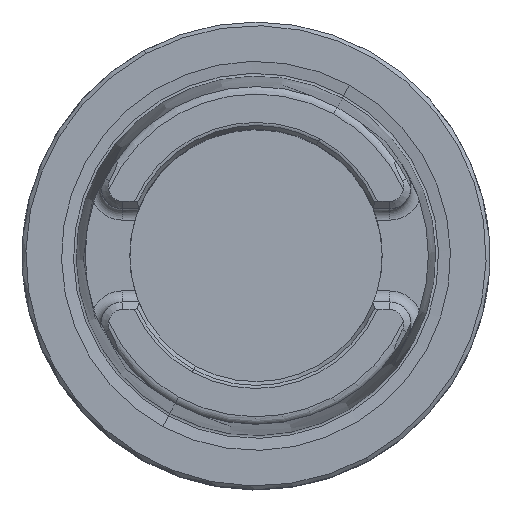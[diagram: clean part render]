
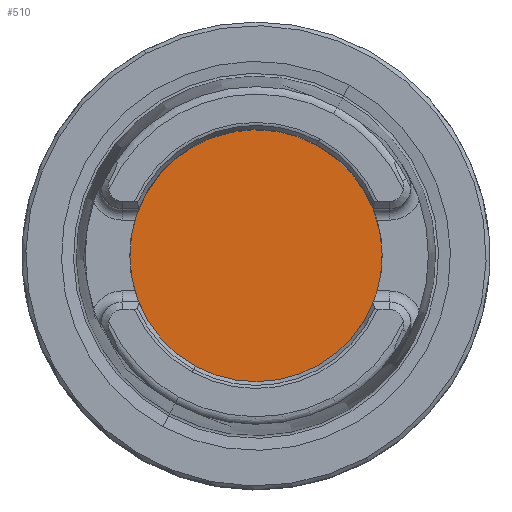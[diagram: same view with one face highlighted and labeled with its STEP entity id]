
A CAD part, top view. The second image highlights one B-rep face of the part: STEP entity #510.
In plain terms, the highlighted planar face has unit normal (0, 0, 1).
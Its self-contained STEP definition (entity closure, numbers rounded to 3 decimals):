
#111=AXIS2_PLACEMENT_3D('Circle Axis2P3D',#109,#110,$) ;
#485=AXIS2_PLACEMENT_3D('Circle Axis2P3D',#483,#484,$) ;
#504=AXIS2_PLACEMENT_3D('Plane Axis2P3D',#501,#502,#503) ;
#106=CARTESIAN_POINT('Vertex',(8.15,14.919,-10.)) ;
#109=CARTESIAN_POINT('Axis2P3D Location',(0.,0.,-10.)) ;
#113=CARTESIAN_POINT('Vertex',(-8.15,-14.919,-10.)) ;
#483=CARTESIAN_POINT('Axis2P3D Location',(0.,0.,-10.)) ;
#501=CARTESIAN_POINT('Axis2P3D Location',(0.,-15.75,-10.)) ;
#110=DIRECTION('Axis2P3D Direction',(0.,0.,-1.)) ;
#484=DIRECTION('Axis2P3D Direction',(0.,0.,-1.)) ;
#502=DIRECTION('Axis2P3D Direction',(0.,0.,-1.)) ;
#503=DIRECTION('Axis2P3D XDirection',(-1.,0.,0.)) ;
#507=ORIENTED_EDGE('',*,*,#487,.F.) ;
#508=ORIENTED_EDGE('',*,*,#115,.F.) ;
#510=ADVANCED_FACE('NO_CUT',(#509),#505,.F.) ;
#112=CIRCLE('generated circle',#111,17.) ;
#486=CIRCLE('generated circle',#485,17.) ;
#115=EDGE_CURVE('',#107,#114,#112,.T.) ;
#487=EDGE_CURVE('',#114,#107,#486,.T.) ;
#506=EDGE_LOOP('',(#507,#508)) ;
#509=FACE_OUTER_BOUND('',#506,.T.) ;
#505=PLANE('',#504) ;
#107=VERTEX_POINT('',#106) ;
#114=VERTEX_POINT('',#113) ;
